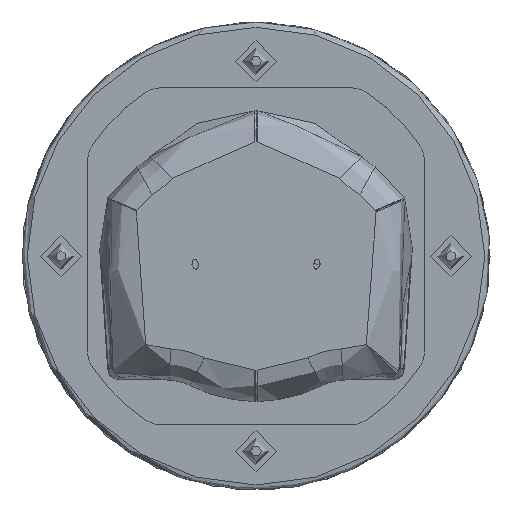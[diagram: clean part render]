
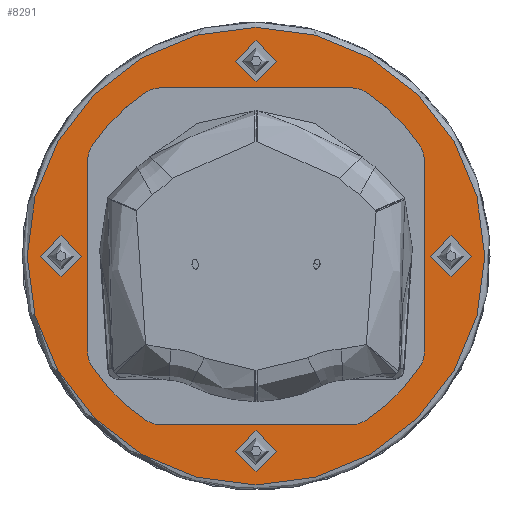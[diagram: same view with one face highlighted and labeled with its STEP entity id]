
A CAD part, top view. The second image highlights one B-rep face of the part: STEP entity #8291.
In plain terms, the highlighted planar face has unit normal (0, 0, 1).
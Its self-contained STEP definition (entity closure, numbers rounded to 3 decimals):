
#296=FACE_BOUND('',#2444,.T.);
#297=FACE_BOUND('',#2445,.T.);
#298=FACE_BOUND('',#2446,.T.);
#299=FACE_BOUND('',#2447,.T.);
#300=FACE_BOUND('',#2448,.T.);
#458=PLANE('',#8972);
#758=LINE('',#24870,#1196);
#763=LINE('',#24886,#1201);
#839=LINE('',#35751,#1277);
#844=LINE('',#35767,#1282);
#1196=VECTOR('',#10097,10.);
#1201=VECTOR('',#10116,10.);
#1277=VECTOR('',#10566,10.);
#1282=VECTOR('',#10585,10.);
#1914=FACE_OUTER_BOUND('',#2443,.T.);
#2443=EDGE_LOOP('',(#7417));
#2444=EDGE_LOOP('',(#7418,#7419,#7420,#7421,#7422,#7423,#7424,#7425,#7426,
#7427,#7428,#7429,#7430,#7431,#7432,#7433));
#2445=EDGE_LOOP('',(#7434));
#2446=EDGE_LOOP('',(#7435));
#2447=EDGE_LOOP('',(#7436));
#2448=EDGE_LOOP('',(#7437));
#2722=CIRCLE('',#8759,5.);
#2723=CIRCLE('',#8762,5.);
#2724=CIRCLE('',#8764,38.);
#2725=CIRCLE('',#8766,5.);
#2726=CIRCLE('',#8769,5.);
#2727=CIRCLE('',#8771,38.);
#2855=CIRCLE('',#8953,5.);
#2856=CIRCLE('',#8956,5.);
#2857=CIRCLE('',#8958,38.);
#2858=CIRCLE('',#8960,5.);
#2859=CIRCLE('',#8963,5.);
#2860=CIRCLE('',#8966,44.);
#2865=CIRCLE('',#8973,38.);
#2866=CIRCLE('',#8974,3.9);
#2867=CIRCLE('',#8975,3.9);
#2868=CIRCLE('',#8976,3.9);
#2869=CIRCLE('',#8977,3.9);
#3752=VERTEX_POINT('',#24862);
#3753=VERTEX_POINT('',#24864);
#3754=VERTEX_POINT('',#24868);
#3755=VERTEX_POINT('',#24872);
#3756=VERTEX_POINT('',#24876);
#3757=VERTEX_POINT('',#24880);
#3758=VERTEX_POINT('',#24884);
#3759=VERTEX_POINT('',#24888);
#3760=VERTEX_POINT('',#24892);
#3939=VERTEX_POINT('',#35745);
#3940=VERTEX_POINT('',#35749);
#3941=VERTEX_POINT('',#35753);
#3942=VERTEX_POINT('',#35757);
#3943=VERTEX_POINT('',#35761);
#3944=VERTEX_POINT('',#35765);
#3945=VERTEX_POINT('',#35769);
#3946=VERTEX_POINT('',#35774);
#3950=VERTEX_POINT('',#35787);
#3951=VERTEX_POINT('',#35789);
#3952=VERTEX_POINT('',#35791);
#3953=VERTEX_POINT('',#35793);
#4787=EDGE_CURVE('',#3753,#3752,#2722,.T.);
#4790=EDGE_CURVE('',#3752,#3754,#758,.T.);
#4792=EDGE_CURVE('',#3754,#3755,#2723,.T.);
#4794=EDGE_CURVE('',#3755,#3756,#2724,.T.);
#4796=EDGE_CURVE('',#3756,#3757,#2725,.T.);
#4798=EDGE_CURVE('',#3757,#3758,#763,.T.);
#4800=EDGE_CURVE('',#3758,#3759,#2726,.T.);
#4802=EDGE_CURVE('',#3759,#3760,#2727,.T.);
#5116=EDGE_CURVE('',#3760,#3939,#2855,.T.);
#5118=EDGE_CURVE('',#3939,#3940,#839,.T.);
#5120=EDGE_CURVE('',#3940,#3941,#2856,.T.);
#5122=EDGE_CURVE('',#3941,#3942,#2857,.T.);
#5124=EDGE_CURVE('',#3942,#3943,#2858,.T.);
#5126=EDGE_CURVE('',#3943,#3944,#844,.T.);
#5128=EDGE_CURVE('',#3944,#3945,#2859,.T.);
#5129=EDGE_CURVE('',#3946,#3946,#2860,.T.);
#5135=EDGE_CURVE('',#3945,#3753,#2865,.T.);
#5136=EDGE_CURVE('',#3950,#3950,#2866,.T.);
#5137=EDGE_CURVE('',#3951,#3951,#2867,.T.);
#5138=EDGE_CURVE('',#3952,#3952,#2868,.T.);
#5139=EDGE_CURVE('',#3953,#3953,#2869,.T.);
#7417=ORIENTED_EDGE('',*,*,#5129,.F.);
#7418=ORIENTED_EDGE('',*,*,#4787,.T.);
#7419=ORIENTED_EDGE('',*,*,#4790,.T.);
#7420=ORIENTED_EDGE('',*,*,#4792,.T.);
#7421=ORIENTED_EDGE('',*,*,#4794,.T.);
#7422=ORIENTED_EDGE('',*,*,#4796,.T.);
#7423=ORIENTED_EDGE('',*,*,#4798,.T.);
#7424=ORIENTED_EDGE('',*,*,#4800,.T.);
#7425=ORIENTED_EDGE('',*,*,#4802,.T.);
#7426=ORIENTED_EDGE('',*,*,#5116,.T.);
#7427=ORIENTED_EDGE('',*,*,#5118,.T.);
#7428=ORIENTED_EDGE('',*,*,#5120,.T.);
#7429=ORIENTED_EDGE('',*,*,#5122,.T.);
#7430=ORIENTED_EDGE('',*,*,#5124,.T.);
#7431=ORIENTED_EDGE('',*,*,#5126,.T.);
#7432=ORIENTED_EDGE('',*,*,#5128,.T.);
#7433=ORIENTED_EDGE('',*,*,#5135,.T.);
#7434=ORIENTED_EDGE('',*,*,#5136,.T.);
#7435=ORIENTED_EDGE('',*,*,#5137,.T.);
#7436=ORIENTED_EDGE('',*,*,#5138,.T.);
#7437=ORIENTED_EDGE('',*,*,#5139,.T.);
#8291=ADVANCED_FACE('',(#1914,#296,#297,#298,#299,#300),#458,.T.);
#8759=AXIS2_PLACEMENT_3D('',#24865,#10091,#10092);
#8762=AXIS2_PLACEMENT_3D('',#24874,#10101,#10102);
#8764=AXIS2_PLACEMENT_3D('',#24878,#10106,#10107);
#8766=AXIS2_PLACEMENT_3D('',#24882,#10111,#10112);
#8769=AXIS2_PLACEMENT_3D('',#24890,#10120,#10121);
#8771=AXIS2_PLACEMENT_3D('',#24894,#10125,#10126);
#8953=AXIS2_PLACEMENT_3D('',#35747,#10561,#10562);
#8956=AXIS2_PLACEMENT_3D('',#35755,#10570,#10571);
#8958=AXIS2_PLACEMENT_3D('',#35759,#10575,#10576);
#8960=AXIS2_PLACEMENT_3D('',#35763,#10580,#10581);
#8963=AXIS2_PLACEMENT_3D('',#35771,#10589,#10590);
#8966=AXIS2_PLACEMENT_3D('',#35775,#10595,#10596);
#8972=AXIS2_PLACEMENT_3D('',#35785,#10608,#10609);
#8973=AXIS2_PLACEMENT_3D('',#35786,#10610,#10611);
#8974=AXIS2_PLACEMENT_3D('',#35788,#10612,#10613);
#8975=AXIS2_PLACEMENT_3D('',#35790,#10614,#10615);
#8976=AXIS2_PLACEMENT_3D('',#35792,#10616,#10617);
#8977=AXIS2_PLACEMENT_3D('',#35794,#10618,#10619);
#10091=DIRECTION('center_axis',(0.,0.,-1.));
#10092=DIRECTION('ref_axis',(0.,1.,0.));
#10097=DIRECTION('',(1.,0.,0.));
#10101=DIRECTION('center_axis',(0.,0.,-1.));
#10102=DIRECTION('ref_axis',(0.558,0.83,0.));
#10106=DIRECTION('center_axis',(0.,0.,-1.));
#10107=DIRECTION('ref_axis',(0.83,0.558,0.));
#10111=DIRECTION('center_axis',(0.,0.,-1.));
#10112=DIRECTION('ref_axis',(1.,0.,0.));
#10116=DIRECTION('',(0.,-1.,0.));
#10120=DIRECTION('center_axis',(0.,0.,-1.));
#10121=DIRECTION('ref_axis',(0.83,-0.558,0.));
#10125=DIRECTION('center_axis',(0.,0.,-1.));
#10126=DIRECTION('ref_axis',(0.558,-0.83,0.));
#10561=DIRECTION('center_axis',(0.,0.,-1.));
#10562=DIRECTION('ref_axis',(0.,-1.,0.));
#10566=DIRECTION('',(-1.,0.,0.));
#10570=DIRECTION('center_axis',(0.,0.,-1.));
#10571=DIRECTION('ref_axis',(-0.558,-0.83,0.));
#10575=DIRECTION('center_axis',(0.,0.,-1.));
#10576=DIRECTION('ref_axis',(-0.83,-0.558,0.));
#10580=DIRECTION('center_axis',(0.,0.,-1.));
#10581=DIRECTION('ref_axis',(-1.,0.,0.));
#10585=DIRECTION('',(0.,1.,0.));
#10589=DIRECTION('center_axis',(0.,0.,-1.));
#10590=DIRECTION('ref_axis',(-0.83,0.558,0.));
#10595=DIRECTION('center_axis',(0.,0.,-1.));
#10596=DIRECTION('ref_axis',(1.,0.,0.));
#10608=DIRECTION('center_axis',(0.,0.,1.));
#10609=DIRECTION('ref_axis',(1.,0.,0.));
#10610=DIRECTION('center_axis',(0.,0.,-1.));
#10611=DIRECTION('ref_axis',(-0.558,0.83,0.));
#10612=DIRECTION('center_axis',(0.,0.,-1.));
#10613=DIRECTION('ref_axis',(1.,0.,0.));
#10614=DIRECTION('center_axis',(0.,0.,-1.));
#10615=DIRECTION('ref_axis',(1.,0.,0.));
#10616=DIRECTION('center_axis',(0.,0.,-1.));
#10617=DIRECTION('ref_axis',(1.,0.,0.));
#10618=DIRECTION('center_axis',(0.,0.,-1.));
#10619=DIRECTION('ref_axis',(1.,0.,0.));
#24862=CARTESIAN_POINT('',(-18.428,32.375,-322.02));
#24864=CARTESIAN_POINT('',(-21.221,31.523,-322.02));
#24865=CARTESIAN_POINT('Origin',(-18.428,27.375,-322.02));
#24868=CARTESIAN_POINT('',(18.428,32.375,-322.02));
#24870=CARTESIAN_POINT('',(-18.428,32.375,-322.02));
#24872=CARTESIAN_POINT('',(21.221,31.523,-322.02));
#24874=CARTESIAN_POINT('Origin',(18.428,27.375,-322.02));
#24876=CARTESIAN_POINT('',(31.523,21.221,-322.02));
#24878=CARTESIAN_POINT('Origin',(0.,0.,-322.02));
#24880=CARTESIAN_POINT('',(32.375,18.428,-322.02));
#24882=CARTESIAN_POINT('Origin',(27.375,18.428,-322.02));
#24884=CARTESIAN_POINT('',(32.375,-18.428,-322.02));
#24886=CARTESIAN_POINT('',(32.375,18.428,-322.02));
#24888=CARTESIAN_POINT('',(31.523,-21.221,-322.02));
#24890=CARTESIAN_POINT('Origin',(27.375,-18.428,-322.02));
#24892=CARTESIAN_POINT('',(21.221,-31.523,-322.02));
#24894=CARTESIAN_POINT('Origin',(0.,0.,-322.02));
#35745=CARTESIAN_POINT('',(18.428,-32.375,-322.02));
#35747=CARTESIAN_POINT('Origin',(18.428,-27.375,-322.02));
#35749=CARTESIAN_POINT('',(-18.428,-32.375,-322.02));
#35751=CARTESIAN_POINT('',(-18.428,-32.375,-322.02));
#35753=CARTESIAN_POINT('',(-21.221,-31.523,-322.02));
#35755=CARTESIAN_POINT('Origin',(-18.428,-27.375,-322.02));
#35757=CARTESIAN_POINT('',(-31.523,-21.221,-322.02));
#35759=CARTESIAN_POINT('Origin',(0.,0.,-322.02));
#35761=CARTESIAN_POINT('',(-32.375,-18.428,-322.02));
#35763=CARTESIAN_POINT('Origin',(-27.375,-18.428,-322.02));
#35765=CARTESIAN_POINT('',(-32.375,18.428,-322.02));
#35767=CARTESIAN_POINT('',(-32.375,18.428,-322.02));
#35769=CARTESIAN_POINT('',(-31.523,21.221,-322.02));
#35771=CARTESIAN_POINT('Origin',(-27.375,18.428,-322.02));
#35774=CARTESIAN_POINT('',(0.,44.,-322.02));
#35775=CARTESIAN_POINT('Origin',(0.,0.,-322.02));
#35785=CARTESIAN_POINT('Origin',(0.,0.,-322.02));
#35786=CARTESIAN_POINT('Origin',(0.,0.,-322.02));
#35787=CARTESIAN_POINT('',(-3.9,37.5,-322.02));
#35788=CARTESIAN_POINT('Origin',(0.,37.5,-322.02));
#35789=CARTESIAN_POINT('',(-41.4,0.,-322.02));
#35790=CARTESIAN_POINT('Origin',(-37.5,0.,-322.02));
#35791=CARTESIAN_POINT('',(33.6,0.,-322.02));
#35792=CARTESIAN_POINT('Origin',(37.5,0.,-322.02));
#35793=CARTESIAN_POINT('',(-3.9,-37.5,-322.02));
#35794=CARTESIAN_POINT('Origin',(0.,-37.5,-322.02));
